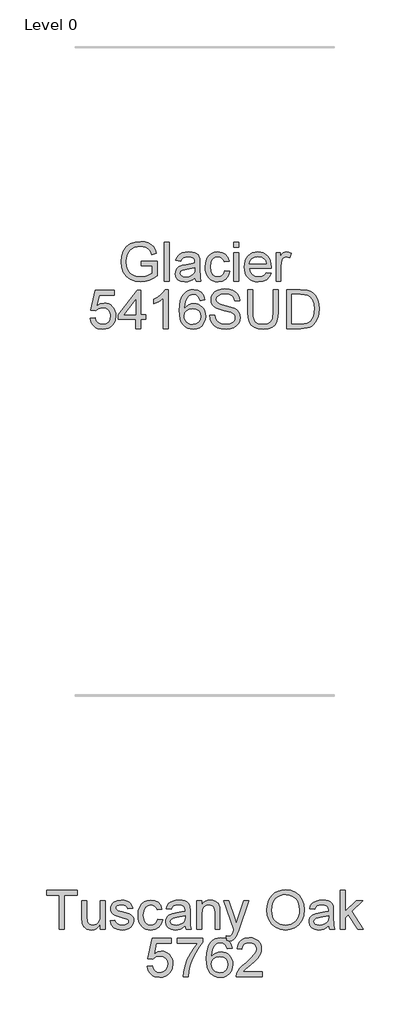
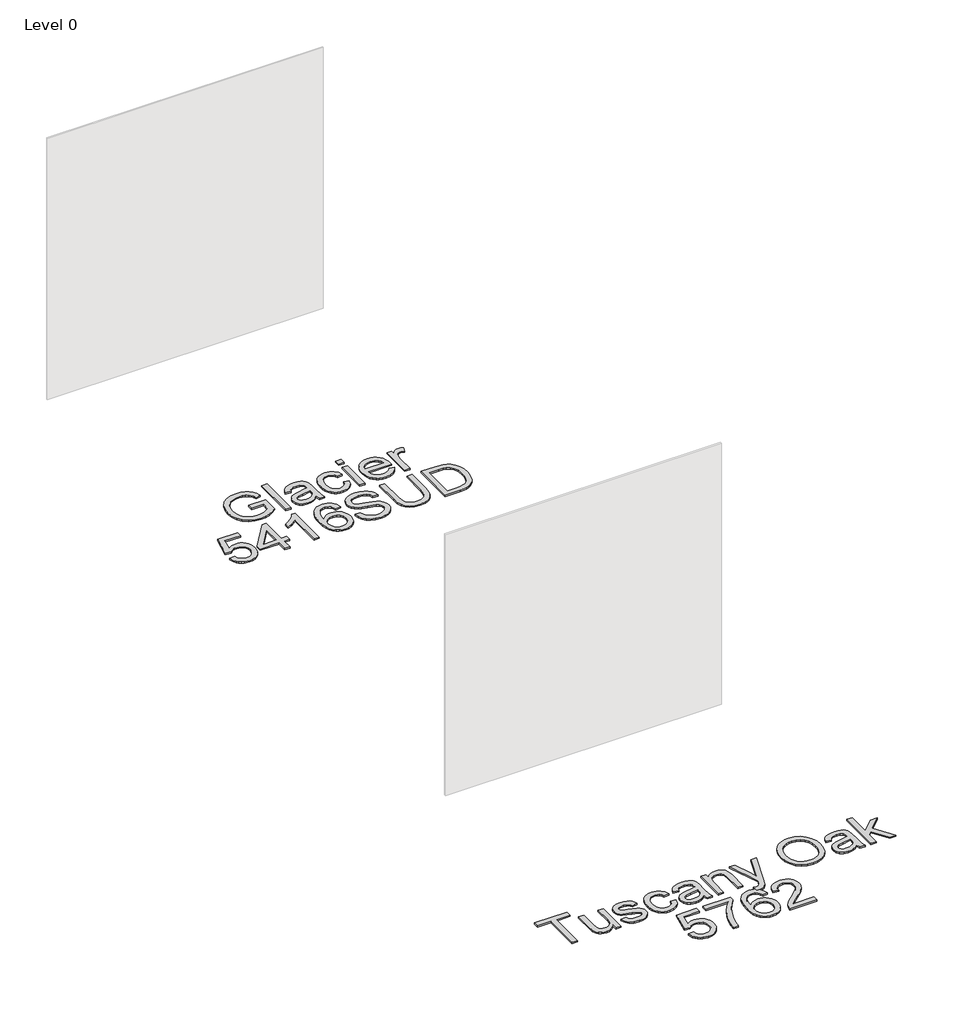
# One storey, part 5 of 7: 2 proxies.
"""IFC4 building model written with IfcOpenShell, lengths in millimetres."""

from ifc_helpers import new_model, si_unit, origin, origin_with_axes, place, context, project, spatial, polyline, outline, extrude, element, save

model = new_model("IFC4")

# Units and contexts
model_context = context("Model", 3, world=origin())
ifc_project = project(units=[si_unit("LENGTHUNIT", "METRE", prefix="MILLI")], contexts=[model_context])

# Site, building, storey
site = spatial("IfcSite", under=ifc_project)
building = spatial("IfcBuilding", under=site)
storey = spatial("IfcBuildingStorey", under=building, Name="Level 0", Elevation=0.0)

# Proxies
placement = place(None, origin())
element("IfcBuildingElementProxy", 1, Name="300mm Arial", ObjectType="300mm Arial", at=placement, inside=storey, context=model_context, shape_type="SweptSolid", body=[
    extrude(outline(polyline([(59.6174317, -6885.1382555), (59.6174317, -6847.4671392), (182.0485597, -6847.4671392), (182.0485597, -6960.1126061), (152.2961033, -6980.8059684), (121.6055479, -6995.6500069), (90.0504698, -7004.5895394), (57.7044453, -7007.5693835), (15.4440011, -7002.8329028), (-22.751347, -6988.6234608), (-54.4811691, -6965.437698), (-77.3450351, -6933.7722553), (-91.1682011, -6895.7884393), (-95.775923, -6853.6475567), (-91.1865952, -6811.2031715), (-77.4186115, -6771.7202364), (-55.0421891, -6738.6016598), (-24.6275452, -6715.2503502), (12.4181717, -6701.399593), (54.687813, -6696.782674), (85.7186593, -6699.4590155), (113.6225086, -6707.4880401), (137.120971, -6720.2903335), (154.9356567, -6737.2864817), (168.1150291, -6759.295022), (177.7075522, -6787.134492), (142.9794918, -6796.9201531), (135.2263788, -6777.0637224), (125.7994026, -6762.0817281), (113.328203, -6750.7877509), (96.4424194, -6741.9953712), (76.3100772, -6736.3391855), (54.0992018, -6734.4537903), (28.0991418, -6736.4863383), (5.8698722, -6742.5839824), (-12.5058334, -6751.9833674), (-26.9452018, -6763.9211381), (-46.3325829, -6792.9470275), (-55.1617508, -6821.3843058), (-58.1048067, -6852.1024524), (-54.5639425, -6888.1272967), (-43.9413499, -6917.7693885), (-26.5589257, -6940.8171955), (-2.7385665, -6957.0591856), (25.1376917, -6966.6884968), (54.687813, -6969.8982672), (80.7798435, -6967.4794431), (106.2280805, -6960.2229707), (128.3285914, -6950.2257775), (144.3774434, -6939.5847908), (144.3774434, -6885.1382555), (59.6174317, -6885.1382555)])), origin_with_axes(), (0.0, 0.0, 1.0), 10.0),
    extrude(outline(polyline([(238.5552342, -7002.860494), (238.5552342, -6701.4915635), (276.2263505, -6701.4915635), (276.2263505, -7002.860494), (238.5552342, -7002.860494)])), origin_with_axes(), (0.0, 0.0, 1.0), 10.0),
    extrude(outline(polyline([(473.9997111, -6974.6071568), (456.0010845, -6990.0398064), (437.469029, -7000.1381672), (417.9804803, -7005.7115794), (397.1123741, -7007.5693835), (365.6308724, -7003.0996173), (342.4083214, -6989.6903186), (328.0885147, -6969.3280501), (323.3152459, -6943.9993748), (325.1178676, -6928.3827841), (330.525733, -6914.2009331), (338.8674572, -6902.0608273), (349.4716557, -6892.5694718), (375.8487948, -6880.2086368), (408.4431395, -6874.5432541), (446.9603844, -6868.5835657), (473.7789819, -6861.5938078), (473.9997111, -6853.2060983), (471.406143, -6836.3938912), (463.6254388, -6825.3942195), (446.2246204, -6817.2272392), (421.981197, -6814.5049125), (399.5403953, -6816.3167313), (383.8686223, -6821.7521878), (373.1816503, -6831.8045633), (365.6952517, -6847.4671392), (328.0241354, -6842.7582497), (334.5632379, -6822.156858), (344.3213078, -6805.9700502), (358.2088531, -6793.590821), (377.1363818, -6784.4121652), (400.2853563, -6778.7283884), (426.8372393, -6776.8337961), (452.3038704, -6778.5076592), (472.4913949, -6783.5292485), (487.7125125, -6791.0800264), (498.2799228, -6800.3414556), (505.2880748, -6811.7917827), (509.8314174, -6825.9092543), (511.6708274, -6858.8714811), (511.6708274, -6905.7396473), (513.5838138, -6971.1858542), (521.0886065, -7002.860494), (483.4174902, -7002.860494), (473.9997111, -6974.6071568)]), holes=[polyline([(473.9997111, -6899.2649241), (413.2256055, -6910.8164188), (380.8152017, -6916.9232599), (366.1367101, -6926.8560738), (360.9863622, -6941.3506244), (363.7914624, -6952.5526311), (372.206763, -6961.7312869), (386.0483231, -6967.8565221), (405.1322016, -6969.8982672), (425.3657113, -6967.64499), (443.2447763, -6960.8851583), (457.7393269, -6950.9247533), (467.8192936, -6939.069756), (472.2890598, -6926.8560738), (473.7789819, -6909.933502), (473.9997111, -6899.2649241)])]), origin_with_axes(), (0.0, 0.0, 1.0), 10.0),
    extrude(outline(polyline([(704.7352985, -6922.8093718), (742.4064148, -6927.5182614), (731.9033838, -6961.0231141), (712.1665148, -6986.3425924), (685.0536117, -7002.2626857), (652.4224787, -7007.5693835), (631.2945559, -7005.7184772), (612.3509324, -7000.1657584), (595.5916083, -6990.9112269), (581.0165835, -6977.9548829), (569.2190677, -6961.5404481), (560.7922708, -6941.9116444), (555.7361926, -6919.0684718), (554.0508332, -6893.0109302), (556.9295098, -6859.4876834), (565.5655397, -6830.4342028), (580.0968785, -6806.9725286), (600.661482, -6790.2247008), (625.2635904, -6780.1815223), (651.9074439, -6776.8337961), (683.7384336, -6781.4323211), (709.1866706, -6795.2278959), (727.4428146, -6817.4847566), (737.6975252, -6847.4671392), (700.0264089, -6852.1760288), (693.1930009, -6835.7409006), (682.5520141, -6823.9594797), (668.69206, -6816.8685543), (652.2017495, -6814.5049125), (627.8571585, -6819.1586197), (608.5341567, -6833.1197414), (595.9250013, -6857.1424357), (591.7219495, -6891.9808606), (595.8330308, -6927.2883351), (608.1662747, -6951.3938029), (627.1397886, -6965.2721511), (651.17168, -6969.8982672), (670.6786228, -6967.0103936), (686.6722925, -6958.3467726), (698.3065606, -6943.6866751), (704.7352985, -6922.8093718)])), origin_with_axes(), (0.0, 0.0, 1.0), 10.0),
    extrude(outline(polyline([(775.3686415, -6739.1626798), (775.3686415, -6701.4915635), (813.0397578, -6701.4915635), (813.0397578, -6739.1626798), (775.3686415, -6739.1626798)])), origin_with_axes(), (0.0, 0.0, 1.0), 10.0),
    extrude(outline(polyline([(775.3686415, -7002.860494), (775.3686415, -6781.5426857), (813.0397578, -6781.5426857), (813.0397578, -7002.860494), (775.3686415, -7002.860494)])), origin_with_axes(), (0.0, 0.0, 1.0), 10.0),
    extrude(outline(polyline([(1024.4983287, -6936.9360404), (1061.433681, -6941.64493), (1048.1255498, -6969.4752029), (1026.8895616, -6990.2789297), (998.2039631, -7003.2467701), (962.5470007, -7007.5693835), (939.1726984, -7005.7046817), (918.345979, -7000.1105761), (900.0668423, -6990.7870668), (884.3352885, -6977.7341537), (871.6847464, -6961.3151204), (862.6486449, -6941.8932503), (857.226984, -6919.4685435), (855.4197637, -6894.0409998), (857.2453781, -6867.7512327), (862.7222213, -6844.5792656), (871.8502933, -6824.5250983), (884.6295941, -6807.5887309), (900.3197612, -6794.133447), (918.1804321, -6784.5225298), (938.2116067, -6778.7559796), (960.4132851, -6776.8337961), (981.8998929, -6778.751381), (1001.33096, -6784.5041357), (1018.7064865, -6794.0920602), (1034.0264723, -6807.5151545), (1046.5321609, -6824.4147337), (1055.4647956, -6844.4321128), (1060.8243764, -6867.5672917), (1062.6109034, -6893.8202706), (1062.3901742, -6903.9738137), (893.09088, -6903.9738137), (899.6115884, -6932.1719686), (914.7591295, -6952.902119), (936.6205171, -6965.6492302), (963.2827647, -6969.8982672), (983.3323334, -6967.9300985), (1000.218117, -6962.0255925), (1013.9401154, -6951.8168672), (1024.4983287, -6936.9360404)]), holes=[polyline([(893.09088, -6866.3026974), (1024.9397871, -6866.3026974), (1019.8446214, -6846.4002814), (1009.8566253, -6832.1632482), (987.8940701, -6818.9194964), (960.2661323, -6814.5049125), (934.8730776, -6818.0273826), (913.8762127, -6828.5947929), (899.2804946, -6845.0667092), (893.09088, -6866.3026974)])]), origin_with_axes(), (0.0, 0.0, 1.0), 10.0),
    extrude(outline(polyline([(1100.2820197, -7002.860494), (1100.2820197, -6781.5426857), (1133.2442464, -6781.5426857), (1133.2442464, -6814.2841833), (1145.4211405, -6795.3014723), (1156.6415413, -6784.1178596), (1167.8987304, -6778.654812), (1180.185989, -6776.8337961), (1198.9479708, -6779.7400639), (1218.0042581, -6788.4588672), (1205.4226939, -6822.2304343), (1192.1789421, -6816.4362929), (1178.9351902, -6814.5049125), (1167.6871982, -6816.3627165), (1157.6348227, -6821.9361288), (1149.5138277, -6830.8020848), (1144.0599771, -6842.5375205), (1139.4798463, -6863.5803706), (1137.953136, -6886.5362071), (1137.953136, -7002.860494), (1100.2820197, -7002.860494)])), origin_with_axes(), (0.0, 0.0, 1.0), 10.0),
    extrude(outline(polyline([(-333.5748447, -7288.7338254), (-295.9037284, -7284.0249358), (-288.9875469, -7306.6404815), (-276.9210175, -7322.8364863), (-259.7593224, -7332.5761621), (-237.557644, -7335.8227207), (-210.5551055, -7331.3069693), (-190.3215958, -7317.7597148), (-177.6848493, -7296.7444558), (-173.4726004, -7269.8246908), (-177.4181348, -7244.4776213), (-189.254738, -7225.0902402), (-209.0743805, -7212.7845875), (-236.9690328, -7208.6827032), (-255.2435709, -7210.3197781), (-270.0416242, -7215.2310027), (-291.1948389, -7232.2271509), (-328.8659552, -7227.5182614), (-295.9037284, -7072.1249066), (-149.9281527, -7072.1249066), (-149.9281527, -7109.7960229), (-265.4430992, -7109.7960229), (-281.5563306, -7192.790201), (-254.6457627, -7176.4562404), (-226.4476077, -7171.0115869), (-208.1017925, -7172.6992456), (-191.2504978, -7177.7622215), (-175.8937238, -7186.2005148), (-162.0314704, -7198.0141254), (-150.5558514, -7212.4810848), (-142.3589807, -7228.8794248), (-137.4408583, -7247.2091452), (-135.8014841, -7267.470246), (-141.7059901, -7305.1413624), (-149.0866227, -7321.9351754), (-159.4195082, -7337.3678251), (-175.0728871, -7353.1729553), (-193.3382282, -7364.4623341), (-214.2155314, -7371.2359613), (-237.7047968, -7373.4938371), (-274.7045285, -7367.6904986), (-290.3831992, -7360.4363255), (-304.1810733, -7350.2804832), (-315.6612908, -7337.7288093), (-324.3869919, -7323.2871418), (-333.5748447, -7288.7338254)])), origin_with_axes(), (0.0, 0.0, 1.0), 10.0),
    extrude(outline(polyline([(19.5918706, -7368.7849475), (19.5918706, -7298.1516044), (-116.965926, -7298.1516044), (-116.965926, -7260.4804881), (29.0096497, -7072.1249066), (57.2629869, -7072.1249066), (57.2629869, -7260.4804881), (94.9341033, -7260.4804881), (94.9341033, -7298.1516044), (57.2629869, -7298.1516044), (57.2629869, -7368.7849475), (19.5918706, -7368.7849475)]), holes=[polyline([(19.5918706, -7260.4804881), (19.5918706, -7144.0826249), (-70.6127946, -7260.4804881), (19.5918706, -7260.4804881)])]), origin_with_axes(), (0.0, 0.0, 1.0), 10.0),
    extrude(outline(polyline([(269.1630162, -7368.7849475), (231.4918999, -7368.7849475), (231.4918999, -7133.9290818), (195.8073463, -7159.3497277), (156.1496672, -7178.3692268), (156.1496672, -7142.7582497), (185.7365767, -7126.6634124), (211.3687547, -7107.5151545), (231.5746733, -7087.1528861), (244.8828045, -7067.4160171), (269.1630162, -7067.4160171), (269.1630162, -7368.7849475)])), origin_with_axes(), (0.0, 0.0, 1.0), 10.0),
    extrude(outline(polyline([(551.6963885, -7147.4671392), (514.0252722, -7152.1760288), (507.9552192, -7133.5060175), (499.7514507, -7120.7589064), (482.6633321, -7109.0050766), (462.006758, -7105.0871334), (444.4955751, -7107.3680017), (428.0144617, -7114.2106069), (413.8602019, -7128.622384), (402.2995102, -7148.4604206), (394.4912149, -7176.5206198), (391.5941442, -7215.5988847), (406.7048971, -7197.9681401), (424.8138883, -7185.5429257), (444.9094423, -7178.1760888), (465.9798836, -7175.7204764), (484.0796777, -7177.3989381), (500.7815203, -7182.4343229), (516.0854113, -7190.8266309), (529.9913507, -7202.5758621), (541.5474439, -7216.9830407), (549.8017962, -7233.349191), (554.7544075, -7251.6743129), (556.405278, -7271.9584064), (553.2966751, -7298.9333537), (543.9708666, -7323.9401323), (529.2004045, -7345.1485293), (509.757841, -7360.7283318), (486.526093, -7370.3024607), (460.3880773, -7373.4938371), (437.9311807, -7371.3785156), (417.6493865, -7365.0325512), (399.5426945, -7354.4559438), (383.6111049, -7339.6486935), (370.6225712, -7319.9854009), (361.3450471, -7294.8406665), (355.7785327, -7264.2144904), (353.9230279, -7228.1068726), (355.983167, -7187.6260575), (362.1635845, -7153.0773396), (372.4642804, -7124.4607189), (386.8852546, -7101.7761954), (402.5156409, -7086.7436174), (420.6384277, -7076.0060617), (441.253615, -7069.5635282), (464.3612028, -7067.4160171), (497.4154001, -7072.7319119), (523.8845096, -7088.6795964), (542.4257622, -7114.0082718), (551.6963885, -7147.4671392)]), holes=[polyline([(391.5941442, -7271.3697952), (393.773845, -7288.0624407), (400.3129474, -7304.0009282), (410.4664905, -7317.7045325), (423.4895131, -7327.6925287), (439.2072714, -7333.7901727), (457.4450213, -7335.8227207), (482.3046471, -7331.6104719), (501.8483781, -7318.9737254), (514.5127158, -7299.1080976), (518.7341617, -7273.2092052), (514.5678981, -7248.3495793), (502.0691073, -7229.3944595), (482.1942825, -7217.3923095), (455.8999169, -7213.3915928), (431.0770793, -7217.3923095), (410.3193377, -7229.3944595), (396.2754425, -7247.8897269), (391.5941442, -7271.3697952)])]), origin_with_axes(), (0.0, 0.0, 1.0), 10.0),
    extrude(outline(polyline([(589.3675048, -7265.1893777), (627.0386211, -7265.1893777), (631.3612345, -7286.0942721), (639.1787269, -7302.8972822), (651.3740151, -7316.2330045), (668.8300157, -7326.7360355), (690.1671714, -7333.5510494), (714.0059247, -7335.8227207), (734.9935926, -7334.1028724), (753.3692982, -7328.9433274), (768.259322, -7320.7763471), (778.7899441, -7310.0341929), (785.0531351, -7297.700949), (787.1408654, -7284.7606998), (785.5773669, -7272.1515444), (780.8868715, -7261.2530403), (771.3587278, -7251.9548229), (755.2822846, -7244.1465276), (700.4310791, -7229.7623415), (664.4246288, -7220.2433949), (641.3860189, -7211.1843008), (622.6332342, -7198.510766), (609.3434971, -7183.1516928), (601.4248372, -7165.4381747), (598.7852838, -7145.7013056), (602.0502366, -7123.637583), (611.8450947, -7103.0637824), (627.9123408, -7085.6261758), (649.9944576, -7072.9710352), (676.5003553, -7065.2731044), (705.8389444, -7062.7071275), (737.6239488, -7065.3926661), (765.4358277, -7073.4492818), (788.2812996, -7086.7114277), (805.1670831, -7105.013557), (815.8540551, -7127.2152354), (820.1030921, -7152.1760288), (782.4319758, -7152.1760288), (775.5157943, -7129.6984389), (761.0948201, -7113.4748429), (738.5620479, -7103.6523936), (707.3104724, -7100.3782438), (675.3231329, -7103.6156054), (653.3789719, -7113.3276901), (640.6870431, -7127.6199056), (636.4564002, -7144.5976597), (639.4546384, -7159.0738162), (648.4493532, -7170.7172813), (669.7129325, -7181.1283418), (709.9592228, -7191.7601314), (751.4931, -7201.8584922), (776.6194403, -7210.669266), (798.0945518, -7224.3360821), (813.076546, -7241.2034716), (821.8781228, -7261.0874934), (824.8119817, -7283.8042066), (821.4366644, -7307.0267576), (811.3107125, -7328.869751), (794.8479932, -7347.668521), (772.4623738, -7361.7584014), (745.5426088, -7370.5599781), (715.4774527, -7373.4938371), (678.5696915, -7370.3300519), (648.1918358, -7360.8386964), (623.9943976, -7344.9829824), (605.627889, -7322.7261217), (593.837271, -7295.6132187), (589.3675048, -7265.1893777)])), origin_with_axes(), (0.0, 0.0, 1.0), 10.0),
    extrude(outline(polyline([(1079.0920167, -7067.4160171), (1116.7631331, -7067.4160171), (1116.7631331, -7241.277048), (1114.2063532, -7281.9923878), (1106.5360136, -7313.3451308), (1092.2070099, -7337.533372), (1069.6742377, -7356.7552063), (1038.8825147, -7369.3091794), (999.7766586, -7373.4938371), (961.5261281, -7369.8518053), (930.9459373, -7358.92571), (908.026889, -7341.0926303), (892.7597862, -7316.7296452), (884.1789387, -7284.052527), (881.3186561, -7241.277048), (881.3186561, -7067.4160171), (918.9897724, -7067.4160171), (918.9897724, -7239.9526728), (920.8475765, -7273.8070134), (926.4209887, -7297.3790523), (936.5193495, -7313.7038158), (951.9519992, -7325.8163305), (972.0751444, -7333.3211232), (996.2449914, -7335.8227207), (1034.5599012, -7330.8747079), (1048.9027005, -7324.6896919), (1060.0357294, -7316.0306694), (1068.3728551, -7303.8537754), (1074.3279449, -7287.1151446), (1079.0920167, -7239.9526728), (1079.0920167, -7067.4160171)])), origin_with_axes(), (0.0, 0.0, 1.0), 10.0),
    extrude(outline(polyline([(1182.6875866, -7368.7849475), (1182.6875866, -7067.4160171), (1286.6510384, -7067.4160171), (1340.4353861, -7071.7570246), (1364.4580804, -7080.12634), (1384.7283783, -7093.3149095), (1405.5688934, -7116.270746), (1420.4129319, -7144.8183889), (1429.2972821, -7178.406015), (1432.2587321, -7216.4818015), (1430.2537752, -7248.8278259), (1424.2389046, -7277.2926953), (1415.0786429, -7301.5269217), (1403.6375129, -7321.1810173), (1390.4673375, -7336.6964405), (1376.1199397, -7348.5146496), (1359.6480233, -7357.2794381), (1340.1042923, -7363.6345996), (1291.6542336, -7368.7849475), (1182.6875866, -7368.7849475)]), holes=[polyline([(1220.3587029, -7331.1138312), (1287.0189204, -7331.1138312), (1314.591676, -7329.7526678), (1335.5057674, -7325.6691777), (1351.287905, -7319.1024841), (1363.464799, -7310.2917103), (1376.552201, -7293.9853408), (1386.3838473, -7272.8781114), (1392.5366737, -7246.8780514), (1394.5876158, -7215.8931903), (1390.568505, -7174.8375597), (1378.5111726, -7144.5240833), (1360.696487, -7123.7019623), (1339.4053165, -7111.1203981), (1317.737067, -7106.5954496), (1285.9888508, -7105.0871334), (1220.3587029, -7105.0871334), (1220.3587029, -7331.1138312)])]), origin_with_axes(), (0.0, 0.0, 1.0), 10.0),
])
element("IfcBuildingElementProxy", 2, Name="300mm Arial", ObjectType="300mm Arial", at=placement, inside=storey, context=model_context, shape_type="SweptSolid", body=[
    extrude(outline(polyline([(-571.3737664, -12002.860494), (-571.3737664, -11739.1626798), (-670.2604467, -11739.1626798), (-670.2604467, -11701.4915635), (-434.8159698, -11701.4915635), (-434.8159698, -11739.1626798), (-533.7026501, -11739.1626798), (-533.7026501, -12002.860494), (-571.3737664, -12002.860494)])), origin_with_axes(), (0.0, 0.0, 1.0), 10.0),
    extrude(outline(polyline([(-255.8781674, -12002.860494), (-255.8781674, -11964.8214957), (-269.5081953, -11983.5236966), (-285.3823034, -11996.8824116), (-303.5004916, -12004.8976405), (-323.8627601, -12007.5693835), (-342.2108746, -12005.6931853), (-359.2897962, -12000.0645908), (-373.6187999, -11991.6033049), (-383.7171607, -11981.2290327), (-394.9375615, -11953.4907302), (-397.1448535, -11918.4683643), (-397.1448535, -11781.5426857), (-359.4737372, -11781.5426857), (-359.4737372, -11900.7364521), (-357.1928688, -11939.1433324), (-351.70223, -11951.9548229), (-342.293648, -11961.6944987), (-329.5925221, -11967.8473251), (-314.2242518, -11969.8982672), (-297.9730646, -11967.8013398), (-282.7703412, -11961.5105577), (-270.2347622, -11951.605335), (-261.9850085, -11938.6650858), (-257.4048776, -11920.9423707), (-255.8781674, -11896.6897502), (-255.8781674, -11781.5426857), (-218.207051, -11781.5426857), (-218.207051, -12002.860494), (-255.8781674, -12002.860494)])), origin_with_axes(), (0.0, 0.0, 1.0), 10.0),
    extrude(outline(polyline([(-180.5359347, -11936.9360404), (-142.8648184, -11932.2271509), (-136.9235242, -11948.3403823), (-125.4272119, -11960.1861825), (-108.302305, -11967.470246), (-85.4752272, -11969.8982672), (-62.9240609, -11967.6725811), (-47.0683469, -11960.9955229), (-37.687356, -11951.3202265), (-34.5603591, -11940.0998256), (-37.7057501, -11930.4981055), (-47.1419233, -11923.1772538), (-85.9166856, -11912.4350996), (-142.6440892, -11894.0042116), (-157.0006841, -11884.7427824), (-167.4025475, -11872.4831149), (-173.7209208, -11858.0069584), (-175.8270452, -11842.0960621), (-174.134788, -11827.5003439), (-169.0580165, -11814.0266659), (-161.0565831, -11802.2084568), (-150.5903403, -11792.5791455), (-126.6412224, -11781.4323211), (-94.2308187, -11776.8337961), (-69.7114837, -11778.6824032), (-48.3927221, -11784.2282242), (-31.2494211, -11792.9286334), (-19.2564681, -11804.2410048), (-11.310217, -11819.0022698), (-6.3070218, -11838.0493601), (-43.9781381, -11842.7582497), (-48.7330129, -11830.9032524), (-58.1415949, -11821.972917), (-72.2958547, -11816.3719136), (-91.2877627, -11814.5049125), (-112.919224, -11816.2891401), (-127.3401982, -11821.6418232), (-135.4519962, -11829.3673451), (-138.1559289, -11838.2700893), (-133.6677686, -11849.2329728), (-119.6146763, -11857.5471059), (-87.1674844, -11865.5669334), (-31.8748205, -11883.2988455), (-17.2699053, -11891.7785255), (-6.1966572, -11903.3852025), (0.7839036, -11918.1556646), (3.1107573, -11936.1267001), (0.3792334, -11954.7047408), (-7.815338, -11972.1791356), (-21.1602574, -11987.1795239), (-39.342825, -11998.3355454), (-61.3053801, -12005.260924), (-85.990262, -12007.5693835), (-123.974078, -12003.1180114), (-151.6939863, -11989.763895), (-170.1984507, -11967.654187), (-180.5359347, -11936.9360404)])), origin_with_axes(), (0.0, 0.0, 1.0), 10.0),
    extrude(outline(polyline([(186.7574492, -11922.8093718), (224.4285656, -11927.5182614), (213.9255346, -11961.0231141), (194.1886655, -11986.3425924), (167.0757625, -12002.2626857), (134.4446295, -12007.5693835), (113.3167067, -12005.7184772), (94.3730832, -12000.1657584), (77.6137591, -11990.9112269), (63.0387343, -11977.9548829), (51.2412185, -11961.5404481), (42.8144216, -11941.9116444), (37.7583434, -11919.0684718), (36.072984, -11893.0109302), (38.9516606, -11859.4876834), (47.5876905, -11830.4342028), (62.1190293, -11806.9725286), (82.6836328, -11790.2247008), (107.2857412, -11780.1815223), (133.9295947, -11776.8337961), (165.7605844, -11781.4323211), (191.2088214, -11795.2278959), (209.4649654, -11817.4847566), (219.719676, -11847.4671392), (182.0485597, -11852.1760288), (175.2151516, -11835.7409006), (164.5741649, -11823.9594797), (150.7142108, -11816.8685543), (134.2239003, -11814.5049125), (109.8793093, -11819.1586197), (90.5563075, -11833.1197414), (77.9471521, -11857.1424357), (73.7441003, -11891.9808606), (77.8551816, -11927.2883351), (90.1884255, -11951.3938029), (109.1619394, -11965.2721511), (133.1938307, -11969.8982672), (152.7007735, -11967.0103936), (168.6944433, -11958.3467726), (180.3287114, -11943.6866751), (186.7574492, -11922.8093718)])), origin_with_axes(), (0.0, 0.0, 1.0), 10.0),
    extrude(outline(polyline([(398.6574785, -11974.6071568), (380.6588519, -11990.0398064), (362.1267963, -12000.1381672), (342.6382477, -12005.7115794), (321.7701415, -12007.5693835), (290.2886397, -12003.0996173), (267.0660888, -11989.6903186), (252.7462821, -11969.3280501), (247.9730132, -11943.9993748), (249.775635, -11928.3827841), (255.1835003, -11914.2009331), (263.5252246, -11902.0608273), (274.1294231, -11892.5694718), (300.5065622, -11880.2086368), (333.1009069, -11874.5432541), (371.6181518, -11868.5835657), (398.4367493, -11861.5938078), (398.6574785, -11853.2060983), (396.0639104, -11836.3938912), (388.2832062, -11825.3942195), (370.8823878, -11817.2272392), (346.6389644, -11814.5049125), (324.1981626, -11816.3167313), (308.5263896, -11821.7521878), (297.8394177, -11831.8045633), (290.3530191, -11847.4671392), (252.6819028, -11842.7582497), (259.2210052, -11822.156858), (268.9790752, -11805.9700502), (282.8666205, -11793.590821), (301.7941491, -11784.4121652), (324.9431237, -11778.7283884), (351.4950067, -11776.8337961), (376.9616378, -11778.5076592), (397.1491623, -11783.5292485), (412.3702798, -11791.0800264), (422.9376901, -11800.3414556), (429.9458422, -11811.7917827), (434.4891848, -11825.9092543), (436.3285948, -11858.8714811), (436.3285948, -11905.7396473), (438.2415811, -11971.1858542), (445.7463739, -12002.860494), (408.0752575, -12002.860494), (398.6574785, -11974.6071568)]), holes=[polyline([(398.6574785, -11899.2649241), (337.8833729, -11910.8164188), (305.4729691, -11916.9232599), (290.7944775, -11926.8560738), (285.6441295, -11941.3506244), (288.4492298, -11952.5526311), (296.8645304, -11961.7312869), (310.7060905, -11967.8565221), (329.789969, -11969.8982672), (350.0234787, -11967.64499), (367.9025437, -11960.8851583), (382.3970943, -11950.9247533), (392.4770609, -11939.069756), (396.9468272, -11926.8560738), (398.4367493, -11909.933502), (398.6574785, -11899.2649241)])]), origin_with_axes(), (0.0, 0.0, 1.0), 10.0),
    extrude(outline(polyline([(488.1263797, -12002.860494), (488.1263797, -11781.5426857), (525.797496, -11781.5426857), (525.797496, -11812.4447733), (538.884898, -11796.8649708), (554.6026562, -11785.7365404), (572.9507707, -11779.0594822), (593.9292415, -11776.8337961), (612.4980852, -11778.6272209), (629.5034304, -11784.0074951), (643.6852814, -11792.303234), (653.7836421, -11802.8430532), (665.0776194, -11830.5445674), (667.0641821, -11866.964885), (667.0641821, -12002.860494), (629.3930658, -12002.860494), (629.3930658, -11872.0416565), (625.0520583, -11838.7115477), (619.0463847, -11828.7879309), (609.7113791, -11821.0900002), (597.7460172, -11816.1511844), (583.8492748, -11814.5049125), (561.7855522, -11818.2021265), (542.9775852, -11829.2937687), (535.4612962, -11838.3482643), (530.0925183, -11850.7228949), (525.797496, -11885.4325611), (525.797496, -12002.860494), (488.1263797, -12002.860494)])), origin_with_axes(), (0.0, 0.0, 1.0), 10.0),
    extrude(outline(polyline([(718.8619671, -12087.6205057), (714.1530775, -12051.3473409), (733.2829413, -12054.6582789), (751.1620062, -12050.5012124), (762.1248897, -12038.9129295), (772.4255856, -12011.1746271), (775.3686415, -12002.0511536), (695.3175194, -11781.5426857), (735.0487749, -11781.5426857), (777.5023571, -11904.4152721), (792.2912133, -11953.5643066), (807.0800695, -11910.1542312), (850.7108741, -11781.5426857), (890.147824, -11781.5426857), (813.1133342, -12008.1579947), (793.1005537, -12057.3070293), (782.8550401, -12072.9971964), (771.2483632, -12083.8681093), (757.7654881, -12090.2140737), (741.89138, -12092.3293952), (718.8619671, -12087.6205057)])), origin_with_axes(), (0.0, 0.0, 1.0), 10.0),
    extrude(outline(polyline([(1029.6486766, -11856.1491543), (1032.1594712, -11820.8002931), (1039.6918551, -11789.5073309), (1052.2458281, -11762.2702677), (1069.8213905, -11739.0891034), (1091.3654798, -11720.5800406), (1115.825034, -11707.3592814), (1143.2000529, -11699.4268258), (1173.4905367, -11696.782674), (1213.0194571, -11701.7490809), (1248.4648873, -11716.6483017), (1277.8954469, -11740.4318727), (1299.3797555, -11772.0513302), (1312.5131427, -11809.9799639), (1316.8909384, -11852.6910636), (1312.2832164, -11895.9723803), (1298.4600505, -11934.4344429), (1276.1847957, -11966.1090827), (1246.2208072, -11989.028131), (1211.0788796, -12002.9340704), (1173.2698075, -12007.5693835), (1133.1338818, -12002.4466267), (1097.4861165, -11987.0783564), (1068.1291333, -11962.853327), (1046.865554, -11931.1602931), (1033.9528959, -11894.6939903), (1029.6486766, -11856.1491543)]), holes=[polyline([(1067.3197929, -11856.5170363), (1069.2028889, -11881.4916252), (1074.8521768, -11903.661114), (1084.2676566, -11923.0255025), (1097.4493283, -11939.5847908), (1113.4728885, -11952.8469367), (1131.4140335, -11962.3198981), (1151.2727635, -11968.0036749), (1173.0490783, -11969.8982672), (1195.1978737, -11967.9852808), (1215.2911284, -11962.2463217), (1233.3288425, -11952.6813898), (1249.3110159, -11939.2904852), (1262.3961186, -11922.381709), (1271.7426206, -11902.2631624), (1277.3505217, -11878.9348454), (1279.2198221, -11852.396758), (1276.0192488, -11819.0482551), (1266.4175287, -11790.2247008), (1250.6629822, -11766.6526619), (1229.0039298, -11749.0587055), (1202.8751111, -11738.1050191), (1173.7112659, -11734.4537903), (1152.6914084, -11736.2127261), (1133.1890641, -11741.4895335), (1115.2042331, -11750.2842124), (1098.7369153, -11762.5967629), (1084.9919242, -11779.0203948), (1075.1740735, -11800.1483176), (1069.2833631, -11825.9805314), (1067.3197929, -11856.5170363)])]), origin_with_axes(), (0.0, 0.0, 1.0), 10.0),
    extrude(outline(polyline([(1505.24652, -11974.6071568), (1487.2478933, -11990.0398064), (1468.7158378, -12000.1381672), (1449.2272891, -12005.7115794), (1428.359183, -12007.5693835), (1396.8776812, -12003.0996173), (1373.6551303, -11989.6903186), (1359.3353236, -11969.3280501), (1354.5620547, -11943.9993748), (1356.3646765, -11928.3827841), (1361.7725418, -11914.2009331), (1370.1142661, -11902.0608273), (1380.7184646, -11892.5694718), (1407.0956036, -11880.2086368), (1439.6899484, -11874.5432541), (1478.2071933, -11868.5835657), (1505.0257908, -11861.5938078), (1505.24652, -11853.2060983), (1502.6529519, -11836.3938912), (1494.8722477, -11825.3942195), (1477.4714293, -11817.2272392), (1453.2280058, -11814.5049125), (1430.7872041, -11816.3167313), (1415.1154311, -11821.7521878), (1404.4284592, -11831.8045633), (1396.9420606, -11847.4671392), (1359.2709443, -11842.7582497), (1365.8100467, -11822.156858), (1375.5681167, -11805.9700502), (1389.455662, -11793.590821), (1408.3831906, -11784.4121652), (1431.5321652, -11778.7283884), (1458.0840482, -11776.8337961), (1483.5506793, -11778.5076592), (1503.7382038, -11783.5292485), (1518.9593213, -11791.0800264), (1529.5267316, -11800.3414556), (1536.5348836, -11811.7917827), (1541.0782263, -11825.9092543), (1542.9176363, -11858.8714811), (1542.9176363, -11905.7396473), (1544.8306226, -11971.1858542), (1552.3354153, -12002.860494), (1514.664299, -12002.860494), (1505.24652, -11974.6071568)]), holes=[polyline([(1505.24652, -11899.2649241), (1444.4724144, -11910.8164188), (1412.0620106, -11916.9232599), (1397.383519, -11926.8560738), (1392.233171, -11941.3506244), (1395.0382713, -11952.5526311), (1403.4535719, -11961.7312869), (1417.295132, -11967.8565221), (1436.3790105, -11969.8982672), (1456.6125202, -11967.64499), (1474.4915852, -11960.8851583), (1488.9861358, -11950.9247533), (1499.0661024, -11939.069756), (1503.5358687, -11926.8560738), (1505.0257908, -11909.933502), (1505.24652, -11899.2649241)])]), origin_with_axes(), (0.0, 0.0, 1.0), 10.0),
    extrude(outline(polyline([(1594.7154212, -12002.860494), (1594.7154212, -11701.4915635), (1632.3865375, -11701.4915635), (1632.3865375, -11863.4332178), (1716.8522436, -11781.5426857), (1768.9443341, -11781.5426857), (1683.4485584, -11864.4632874), (1773.6532236, -12002.860494), (1729.654537, -12002.860494), (1656.44602, -11890.6564855), (1632.3865375, -11913.9802039), (1632.3865375, -12002.860494), (1594.7154212, -12002.860494)])), origin_with_axes(), (0.0, 0.0, 1.0), 10.0),
    extrude(outline(polyline([(106.7063271, -12288.7338254), (144.3774434, -12284.0249358), (151.2936249, -12306.6404815), (163.3601544, -12322.8364863), (180.5218494, -12332.5761621), (202.7235278, -12335.8227207), (229.7260663, -12331.3069693), (249.959576, -12317.7597148), (262.5963226, -12296.7444558), (266.8085714, -12269.8246908), (262.863037, -12244.4776213), (251.0264338, -12225.0902402), (231.2067913, -12212.7845875), (203.312139, -12208.6827032), (185.0376009, -12210.3197781), (170.2395477, -12215.2310027), (149.0863329, -12232.2271509), (111.4152166, -12227.5182614), (144.3774434, -12072.1249066), (290.3530191, -12072.1249066), (290.3530191, -12109.7960229), (174.8380726, -12109.7960229), (158.7248412, -12192.790201), (185.6354092, -12176.4562404), (213.8335641, -12171.0115869), (232.1793793, -12172.6992456), (249.030674, -12177.7622215), (264.387448, -12186.2005148), (278.2497014, -12198.0141254), (289.7253204, -12212.4810848), (297.9221911, -12228.8794248), (302.8403136, -12247.2091452), (304.4796877, -12267.470246), (298.5751817, -12305.1413624), (291.1945492, -12321.9351754), (280.8616636, -12337.3678251), (265.2082847, -12353.1729553), (246.9429437, -12364.4623341), (226.0656404, -12371.2359613), (202.576375, -12373.4938371), (165.5766434, -12367.6904986), (149.8979726, -12360.4363255), (136.1000985, -12350.2804832), (124.619881, -12337.7288093), (115.8941799, -12323.2871418), (106.7063271, -12288.7338254)])), origin_with_axes(), (0.0, 0.0, 1.0), 10.0),
    extrude(outline(polyline([(337.4419145, -12109.7960229), (337.4419145, -12072.1249066), (535.2152751, -12072.1249066), (535.2152751, -12102.5855358), (507.0263172, -12138.2608923), (479.1132708, -12183.6299393), (454.4927683, -12234.5540045), (436.181442, -12286.8944154), (427.2051213, -12326.0554538), (422.2019262, -12368.7849475), (384.5308099, -12368.7849475), (388.605103, -12329.9550029), (399.5036071, -12283.8042066), (416.9320166, -12234.8850983), (440.5960259, -12187.7502177), (468.2239638, -12145.1402856), (497.5441588, -12109.7960229), (337.4419145, -12109.7960229)])), origin_with_axes(), (0.0, 0.0, 1.0), 10.0),
    extrude(outline(polyline([(761.2419729, -12147.4671392), (723.5708566, -12152.1760288), (717.5008037, -12133.5060175), (709.2970352, -12120.7589064), (692.2089165, -12109.0050766), (671.5523425, -12105.0871334), (654.0411595, -12107.3680017), (637.5600461, -12114.2106069), (623.4057864, -12128.622384), (611.8450947, -12148.4604206), (604.0367993, -12176.5206198), (601.1397286, -12215.5988847), (616.2504816, -12197.9681401), (634.3594728, -12185.5429257), (654.4550268, -12178.1760888), (675.525468, -12175.7204764), (693.6252622, -12177.3989381), (710.3271048, -12182.4343229), (725.6309958, -12190.8266309), (739.5369352, -12202.5758621), (751.0930284, -12216.9830407), (759.3473806, -12233.349191), (764.299992, -12251.6743129), (765.9508625, -12271.9584064), (762.8422596, -12298.9333537), (753.516451, -12323.9401323), (738.7459889, -12345.1485293), (719.3034255, -12360.7283318), (696.0716775, -12370.3024607), (669.9336617, -12373.4938371), (647.4767652, -12371.3785156), (627.1949709, -12365.0325512), (609.088279, -12354.4559438), (593.1566893, -12339.6486935), (580.1681556, -12319.9854009), (570.8906316, -12294.8406665), (565.3241171, -12264.2144904), (563.4686123, -12228.1068726), (565.5287515, -12187.6260575), (571.709169, -12153.0773396), (582.0098649, -12124.4607189), (596.4308391, -12101.7761954), (612.0612253, -12086.7436174), (630.1840121, -12076.0060617), (650.7991994, -12069.5635282), (673.9067873, -12067.4160171), (706.9609845, -12072.7319119), (733.4300941, -12088.6795964), (751.9713466, -12114.0082718), (761.2419729, -12147.4671392)]), holes=[polyline([(601.1397286, -12271.3697952), (603.3194294, -12288.0624407), (609.8585319, -12304.0009282), (620.012075, -12317.7045325), (633.0350976, -12327.6925287), (648.7528558, -12333.7901727), (666.9906058, -12335.8227207), (691.8502316, -12331.6104719), (711.3939626, -12318.9737254), (724.0583003, -12299.1080976), (728.2797461, -12273.2092052), (724.1134826, -12248.3495793), (711.6146918, -12229.3944595), (691.739867, -12217.3923095), (665.4455014, -12213.3915928), (640.6226637, -12217.3923095), (619.8649222, -12229.3944595), (605.821027, -12247.8897269), (601.1397286, -12271.3697952)])]), origin_with_axes(), (0.0, 0.0, 1.0), 10.0),
    extrude(outline(polyline([(991.9775603, -12331.1138312), (991.9775603, -12368.7849475), (794.2041997, -12368.7849475), (798.2509016, -12342.8124787), (807.539922, -12322.5145896), (821.1331617, -12302.8237058), (840.7964544, -12282.213117), (868.2956335, -12259.156113), (908.946594, -12223.0484951), (933.3371703, -12196.3954446), (945.5324584, -12174.7639833), (949.5975544, -12153.7211331), (945.7623846, -12134.8579838), (934.2568752, -12119.1770138), (916.5709483, -12108.6096035), (894.194526, -12105.0871334), (870.6960635, -12108.52683), (852.4399195, -12118.84592), (840.6584986, -12135.2350629), (836.5842055, -12156.8849183), (798.9130892, -12152.1760288), (808.0457598, -12115.7373171), (816.5921184, -12101.2013798), (827.7918258, -12089.1210548), (841.3873648, -12079.6251008), (857.1212179, -12072.8422765), (895.0038664, -12067.4160171), (915.1936901, -12068.9243332), (933.1624263, -12073.4492818), (948.910075, -12080.9908627), (962.4366361, -12091.549076), (973.3006512, -12104.3421723), (981.0606621, -12118.5884026), (985.7166686, -12134.2877667), (987.2686708, -12151.4402648), (985.5948077, -12169.4572855), (980.5732184, -12187.1616065), (971.6612771, -12205.1694302), (958.3163577, -12224.0969588), (937.0435814, -12246.6941104), (904.348069, -12275.7108027), (861.01157, -12311.9471793), (844.0154218, -12331.1138312), (991.9775603, -12331.1138312)])), origin_with_axes(), (0.0, 0.0, 1.0), 10.0),
])

save(model, "model.ifc")
